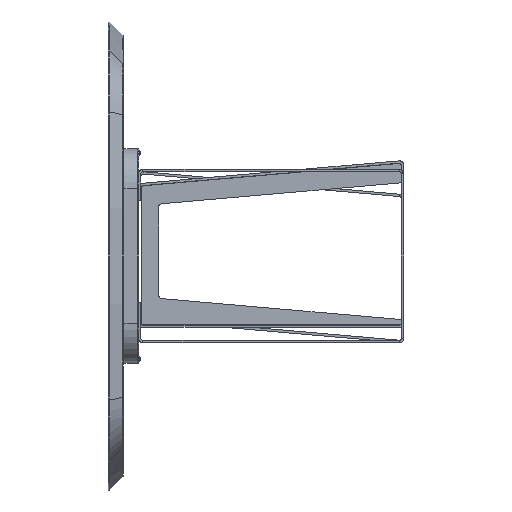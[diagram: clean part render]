
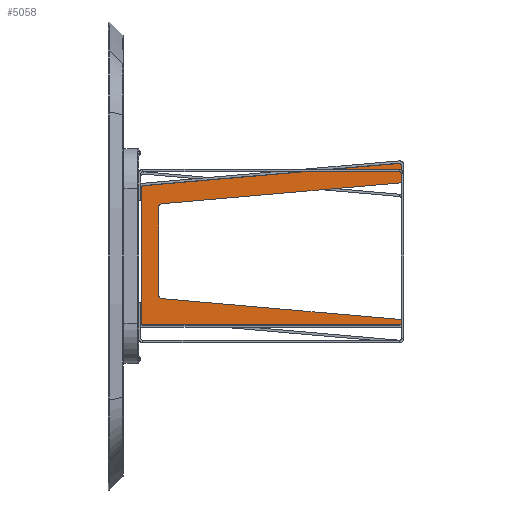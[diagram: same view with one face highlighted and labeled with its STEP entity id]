
A CAD part, left-side view. The second image highlights one B-rep face of the part: STEP entity #5058.
In plain terms, the highlighted planar face has unit normal (-1, 0, 0) as drawn and (0, 0, 1) by its records, which use the part's own axes.
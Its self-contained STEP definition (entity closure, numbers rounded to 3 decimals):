
#806 = EDGE_CURVE ( 'NONE', #9190, #1845, #4240, .T. ) ;
#1085 = LINE ( 'NONE', #7008, #6094 ) ;
#1162 = LINE ( 'NONE', #6994, #9954 ) ;
#1274 = DIRECTION ( 'NONE',  ( 1., 0., 0. ) ) ;
#1277 = CARTESIAN_POINT ( 'NONE',  ( 232.456, 11.5, 15. ) ) ;
#1319 = CARTESIAN_POINT ( 'NONE',  ( 0., 628.5, 15. ) ) ;
#1445 = PLANE ( 'NONE',  #17154 ) ;
#1539 = DIRECTION ( 'NONE',  ( 1., 0., 0. ) ) ;
#1684 = VECTOR ( 'NONE', #4865, 1000. ) ;
#1776 = EDGE_CURVE ( 'NONE', #2215, #16989, #8129, .T. ) ;
#1845 = VERTEX_POINT ( 'NONE', #3483 ) ;
#2043 = EDGE_CURVE ( 'NONE', #5434, #18821, #16829, .T. ) ;
#2210 = CARTESIAN_POINT ( 'NONE',  ( 238.457, 6.5, 15. ) ) ;
#2215 = VERTEX_POINT ( 'NONE', #14766 ) ;
#2392 = DIRECTION ( 'NONE',  ( 1., 0., 0. ) ) ;
#2491 = DIRECTION ( 'NONE',  ( -1., 0., 0. ) ) ;
#2727 = CARTESIAN_POINT ( 'NONE',  ( -176.5, 11.5, 15. ) ) ;
#2952 = ORIENTED_EDGE ( 'NONE', *, *, #3350, .T. ) ;
#3036 = VECTOR ( 'NONE', #4546, 1000. ) ;
#3046 = AXIS2_PLACEMENT_3D ( 'NONE', #1277, #13456, #16187 ) ;
#3350 = EDGE_CURVE ( 'NONE', #17692, #12707, #16038, .T. ) ;
#3449 = CARTESIAN_POINT ( 'NONE',  ( 125.973, 620.5, 15. ) ) ;
#3483 = CARTESIAN_POINT ( 'NONE',  ( -101.213, 628.5, 15. ) ) ;
#3600 = EDGE_CURVE ( 'NONE', #16201, #16917, #4602, .T. ) ;
#3704 = ORIENTED_EDGE ( 'NONE', *, *, #2043, .T. ) ;
#3873 = DIRECTION ( 'NONE',  ( 1., 0., 0. ) ) ;
#3943 = ORIENTED_EDGE ( 'NONE', *, *, #6092, .T. ) ;
#4007 = AXIS2_PLACEMENT_3D ( 'NONE', #15663, #13929, #3873 ) ;
#4076 = ORIENTED_EDGE ( 'NONE', *, *, #8289, .F. ) ;
#4240 = LINE ( 'NONE', #1319, #4403 ) ;
#4403 = VECTOR ( 'NONE', #2491, 1000. ) ;
#4512 = ORIENTED_EDGE ( 'NONE', *, *, #18434, .T. ) ;
#4546 = DIRECTION ( 'NONE',  ( 0.087, -0.996, 0. ) ) ;
#4602 = CIRCLE ( 'NONE', #15716, 5. ) ;
#4865 = DIRECTION ( 'NONE',  ( 1., 0., 0. ) ) ;
#4912 = ORIENTED_EDGE ( 'NONE', *, *, #806, .F. ) ;
#5058 = ADVANCED_FACE ( 'NONE', ( #7458 ), #1445, .F. ) ;
#5434 = VERTEX_POINT ( 'NONE', #6869 ) ;
#5706 = VERTEX_POINT ( 'NONE', #6176 ) ;
#5959 = CARTESIAN_POINT ( 'NONE',  ( -171.5, 11.5, 15. ) ) ;
#5999 = LINE ( 'NONE', #17825, #3036 ) ;
#6003 = DIRECTION ( 'NONE',  ( 0., 0., -1. ) ) ;
#6092 = EDGE_CURVE ( 'NONE', #12017, #17692, #10757, .T. ) ;
#6094 = VECTOR ( 'NONE', #10190, 1000. ) ;
#6176 = CARTESIAN_POINT ( 'NONE',  ( -109.183, 621.197, 15. ) ) ;
#6178 = CARTESIAN_POINT ( 'NONE',  ( 125.973, 628.5, 15. ) ) ;
#6209 = DIRECTION ( 'NONE',  ( 0., -1., 0. ) ) ;
#6400 = ORIENTED_EDGE ( 'NONE', *, *, #10247, .T. ) ;
#6523 = EDGE_CURVE ( 'NONE', #16917, #16775, #15287, .T. ) ;
#6545 = LINE ( 'NONE', #15433, #7827 ) ;
#6709 = VERTEX_POINT ( 'NONE', #18677 ) ;
#6869 = CARTESIAN_POINT ( 'NONE',  ( -171.5, 6.5, 15. ) ) ;
#6994 = CARTESIAN_POINT ( 'NONE',  ( 179.514, 674., 15. ) ) ;
#7008 = CARTESIAN_POINT ( 'NONE',  ( -162.284, 14.242, 15. ) ) ;
#7458 = FACE_OUTER_BOUND ( 'NONE', #16007, .T. ) ;
#7635 = DIRECTION ( 'NONE',  ( 0., 0., 1. ) ) ;
#7753 = ORIENTED_EDGE ( 'NONE', *, *, #7851, .T. ) ;
#7827 = VECTOR ( 'NONE', #10977, 1000. ) ;
#7832 = CARTESIAN_POINT ( 'NONE',  ( 174.976, 668.5, 15. ) ) ;
#7851 = EDGE_CURVE ( 'NONE', #16775, #5434, #17840, .T. ) ;
#8129 = CIRCLE ( 'NONE', #14605, 5. ) ;
#8289 = EDGE_CURVE ( 'NONE', #5706, #18821, #1085, .T. ) ;
#8414 = DIRECTION ( 'NONE',  ( 1., 0., 0. ) ) ;
#8442 = VECTOR ( 'NONE', #2392, 1000. ) ;
#8658 = DIRECTION ( 'NONE',  ( 0., 0., 1. ) ) ;
#8801 = DIRECTION ( 'NONE',  ( -0.087, 0.996, 0. ) ) ;
#8832 = CARTESIAN_POINT ( 'NONE',  ( 232.456, 6.5, 15. ) ) ;
#9190 = VERTEX_POINT ( 'NONE', #6178 ) ;
#9688 = DIRECTION ( 'NONE',  ( 0., 0., 1. ) ) ;
#9744 = ORIENTED_EDGE ( 'NONE', *, *, #14439, .T. ) ;
#9954 = VECTOR ( 'NONE', #8801, 1000. ) ;
#10190 = DIRECTION ( 'NONE',  ( -0.087, -0.996, 0. ) ) ;
#10247 = EDGE_CURVE ( 'NONE', #5706, #1845, #12334, .T. ) ;
#10272 = ORIENTED_EDGE ( 'NONE', *, *, #15500, .T. ) ;
#10299 = AXIS2_PLACEMENT_3D ( 'NONE', #3449, #12332, #16801 ) ;
#10757 = LINE ( 'NONE', #12583, #1684 ) ;
#10977 = DIRECTION ( 'NONE',  ( -1., 0., 0. ) ) ;
#11122 = ORIENTED_EDGE ( 'NONE', *, *, #15479, .T. ) ;
#11204 = CARTESIAN_POINT ( 'NONE',  ( -162.962, 6.5, 15. ) ) ;
#11227 = CARTESIAN_POINT ( 'NONE',  ( -171.5, 668.5, 15. ) ) ;
#12017 = VERTEX_POINT ( 'NONE', #18888 ) ;
#12120 = ORIENTED_EDGE ( 'NONE', *, *, #6523, .T. ) ;
#12195 = VECTOR ( 'NONE', #6209, 1000. ) ;
#12332 = DIRECTION ( 'NONE',  ( 0., 0., -1. ) ) ;
#12334 = CIRCLE ( 'NONE', #4007, 8. ) ;
#12583 = CARTESIAN_POINT ( 'NONE',  ( 238.457, 6.5, 15. ) ) ;
#12707 = VERTEX_POINT ( 'NONE', #18538 ) ;
#13456 = DIRECTION ( 'NONE',  ( 0., 0., 1. ) ) ;
#13551 = CARTESIAN_POINT ( 'NONE',  ( 174.976, 673.5, 15. ) ) ;
#13654 = CARTESIAN_POINT ( 'NONE',  ( -176.5, 668.5, 15. ) ) ;
#13929 = DIRECTION ( 'NONE',  ( 0., 0., -1. ) ) ;
#14315 = CIRCLE ( 'NONE', #10299, 8. ) ;
#14439 = EDGE_CURVE ( 'NONE', #12707, #2215, #1162, .T. ) ;
#14605 = AXIS2_PLACEMENT_3D ( 'NONE', #7832, #7635, #1274 ) ;
#14766 = CARTESIAN_POINT ( 'NONE',  ( 179.957, 668.936, 15. ) ) ;
#15287 = LINE ( 'NONE', #15377, #12195 ) ;
#15377 = CARTESIAN_POINT ( 'NONE',  ( -176.5, 11., 15. ) ) ;
#15433 = CARTESIAN_POINT ( 'NONE',  ( -177., 673.5, 15. ) ) ;
#15479 = EDGE_CURVE ( 'NONE', #16989, #16201, #6545, .T. ) ;
#15500 = EDGE_CURVE ( 'NONE', #9190, #6709, #14315, .T. ) ;
#15554 = ORIENTED_EDGE ( 'NONE', *, *, #3600, .T. ) ;
#15663 = CARTESIAN_POINT ( 'NONE',  ( -101.213, 620.5, 15. ) ) ;
#15716 = AXIS2_PLACEMENT_3D ( 'NONE', #11227, #9688, #8414 ) ;
#16007 = EDGE_LOOP ( 'NONE', ( #3943, #2952, #9744, #16609, #11122, #15554, #12120, #7753, #3704, #4076, #6400, #4912, #10272, #4512 ) ) ;
#16038 = CIRCLE ( 'NONE', #3046, 5. ) ;
#16187 = DIRECTION ( 'NONE',  ( 1., 0., 0. ) ) ;
#16201 = VERTEX_POINT ( 'NONE', #17473 ) ;
#16609 = ORIENTED_EDGE ( 'NONE', *, *, #1776, .T. ) ;
#16775 = VERTEX_POINT ( 'NONE', #2727 ) ;
#16801 = DIRECTION ( 'NONE',  ( 1., 0., 0. ) ) ;
#16829 = LINE ( 'NONE', #2210, #8442 ) ;
#16917 = VERTEX_POINT ( 'NONE', #13654 ) ;
#16989 = VERTEX_POINT ( 'NONE', #13551 ) ;
#17154 = AXIS2_PLACEMENT_3D ( 'NONE', #17663, #6003, #1539 ) ;
#17473 = CARTESIAN_POINT ( 'NONE',  ( -171.5, 673.5, 15. ) ) ;
#17663 = CARTESIAN_POINT ( 'NONE',  ( 0., 0., 15. ) ) ;
#17692 = VERTEX_POINT ( 'NONE', #8832 ) ;
#17781 = DIRECTION ( 'NONE',  ( 1., 0., 0. ) ) ;
#17825 = CARTESIAN_POINT ( 'NONE',  ( 186.856, 16.392, 15. ) ) ;
#17840 = CIRCLE ( 'NONE', #18140, 5. ) ;
#18140 = AXIS2_PLACEMENT_3D ( 'NONE', #5959, #8658, #17781 ) ;
#18434 = EDGE_CURVE ( 'NONE', #6709, #12017, #5999, .T. ) ;
#18538 = CARTESIAN_POINT ( 'NONE',  ( 237.437, 11.936, 15. ) ) ;
#18677 = CARTESIAN_POINT ( 'NONE',  ( 133.943, 621.197, 15. ) ) ;
#18821 = VERTEX_POINT ( 'NONE', #11204 ) ;
#18888 = CARTESIAN_POINT ( 'NONE',  ( 187.722, 6.5, 15. ) ) ;
